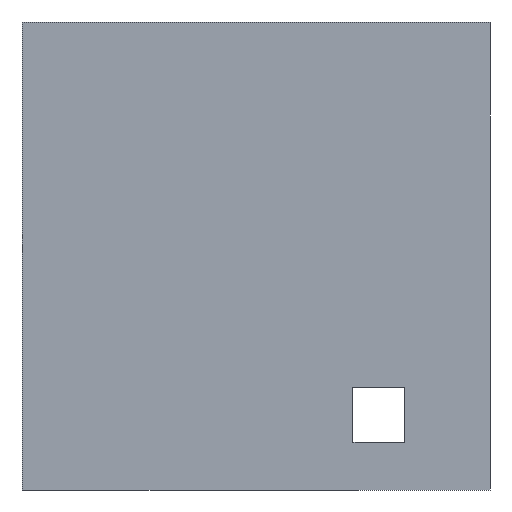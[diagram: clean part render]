
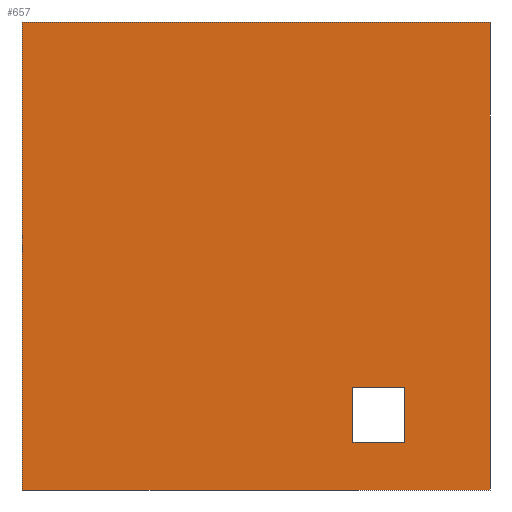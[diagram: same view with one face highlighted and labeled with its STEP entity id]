
A CAD part, left-side view. The second image highlights one B-rep face of the part: STEP entity #657.
In plain terms, the highlighted planar face has unit normal (-1, 0, 0).
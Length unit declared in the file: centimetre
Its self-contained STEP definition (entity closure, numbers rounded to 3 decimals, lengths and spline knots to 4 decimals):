
#12 = VERTEX_POINT ( 'NONE', #1239 ) ;
#28 = ORIENTED_EDGE ( 'NONE', *, *, #1185, .T. ) ;
#44 = CARTESIAN_POINT ( 'NONE',  ( 0., 1000., 1000. ) ) ;
#55 = EDGE_CURVE ( 'NONE', #419, #1200, #273, .T. ) ;
#62 = DIRECTION ( 'NONE',  ( 0., -1., 0. ) ) ;
#105 = VECTOR ( 'NONE', #532, 100. ) ;
#120 = VECTOR ( 'NONE', #1273, 100. ) ;
#145 = EDGE_LOOP ( 'NONE', ( #287, #1041, #222, #806 ) ) ;
#167 = VERTEX_POINT ( 'NONE', #1027 ) ;
#180 = DIRECTION ( 'NONE',  ( 0., -1., 0. ) ) ;
#222 = ORIENTED_EDGE ( 'NONE', *, *, #1074, .F. ) ;
#225 = CARTESIAN_POINT ( 'NONE',  ( 0., 181.9155, 101.6699 ) ) ;
#234 = CARTESIAN_POINT ( 'NONE',  ( 0., 1000., 1000. ) ) ;
#237 = VECTOR ( 'NONE', #180, 100. ) ;
#238 = VECTOR ( 'NONE', #1187, 100. ) ;
#267 = LINE ( 'NONE', #362, #1184 ) ;
#273 = LINE ( 'NONE', #383, #1210 ) ;
#285 = CARTESIAN_POINT ( 'NONE',  ( 0., 0., 1000. ) ) ;
#287 = ORIENTED_EDGE ( 'NONE', *, *, #55, .T. ) ;
#300 = AXIS2_PLACEMENT_3D ( 'NONE', #44, #773, #966 ) ;
#309 = ORIENTED_EDGE ( 'NONE', *, *, #999, .T. ) ;
#310 = EDGE_LOOP ( 'NONE', ( #309, #798, #900, #28 ) ) ;
#324 = CARTESIAN_POINT ( 'NONE',  ( 0., 181.9155, 219.8438 ) ) ;
#359 = VECTOR ( 'NONE', #772, 100. ) ;
#362 = CARTESIAN_POINT ( 'NONE',  ( 0., 292.8012, 101.6699 ) ) ;
#383 = CARTESIAN_POINT ( 'NONE',  ( 0., 1000., 0. ) ) ;
#417 = CARTESIAN_POINT ( 'NONE',  ( 0., 1000., 1000. ) ) ;
#419 = VERTEX_POINT ( 'NONE', #826 ) ;
#474 = CARTESIAN_POINT ( 'NONE',  ( 0., 181.9155, 101.6699 ) ) ;
#500 = CARTESIAN_POINT ( 'NONE',  ( 0., 292.8012, 219.8438 ) ) ;
#529 = DIRECTION ( 'NONE',  ( 0., 0., -1. ) ) ;
#532 = DIRECTION ( 'NONE',  ( 0., 0., -1. ) ) ;
#548 = FACE_OUTER_BOUND ( 'NONE', #145, .T. ) ;
#566 = PLANE ( 'NONE',  #300 ) ;
#585 = LINE ( 'NONE', #1197, #653 ) ;
#641 = VERTEX_POINT ( 'NONE', #324 ) ;
#653 = VECTOR ( 'NONE', #529, 100. ) ;
#657 = ADVANCED_FACE ( 'NONE', ( #1290, #548 ), #566, .F. ) ;
#673 = EDGE_CURVE ( 'NONE', #1122, #12, #1277, .T. ) ;
#734 = LINE ( 'NONE', #285, #105 ) ;
#745 = CARTESIAN_POINT ( 'NONE',  ( 0., 181.9155, 101.6699 ) ) ;
#772 = DIRECTION ( 'NONE',  ( 0., -1., 0. ) ) ;
#773 = DIRECTION ( 'NONE',  ( 1., 0., 0. ) ) ;
#777 = DIRECTION ( 'NONE',  ( 0., 0., 1. ) ) ;
#793 = LINE ( 'NONE', #1125, #237 ) ;
#798 = ORIENTED_EDGE ( 'NONE', *, *, #673, .T. ) ;
#806 = ORIENTED_EDGE ( 'NONE', *, *, #1166, .T. ) ;
#826 = CARTESIAN_POINT ( 'NONE',  ( 0., 1000., 0. ) ) ;
#871 = EDGE_CURVE ( 'NONE', #167, #1200, #734, .T. ) ;
#900 = ORIENTED_EDGE ( 'NONE', *, *, #1134, .T. ) ;
#914 = VERTEX_POINT ( 'NONE', #417 ) ;
#930 = VERTEX_POINT ( 'NONE', #500 ) ;
#966 = DIRECTION ( 'NONE',  ( 0., 0., -1. ) ) ;
#999 = EDGE_CURVE ( 'NONE', #641, #1122, #1302, .T. ) ;
#1017 = CARTESIAN_POINT ( 'NONE',  ( 0., 0., 0. ) ) ;
#1027 = CARTESIAN_POINT ( 'NONE',  ( 0., 0., 1000. ) ) ;
#1041 = ORIENTED_EDGE ( 'NONE', *, *, #871, .F. ) ;
#1074 = EDGE_CURVE ( 'NONE', #914, #167, #1180, .T. ) ;
#1122 = VERTEX_POINT ( 'NONE', #474 ) ;
#1125 = CARTESIAN_POINT ( 'NONE',  ( 0., 181.9155, 219.8438 ) ) ;
#1134 = EDGE_CURVE ( 'NONE', #12, #930, #267, .T. ) ;
#1166 = EDGE_CURVE ( 'NONE', #914, #419, #585, .T. ) ;
#1180 = LINE ( 'NONE', #234, #359 ) ;
#1184 = VECTOR ( 'NONE', #777, 100. ) ;
#1185 = EDGE_CURVE ( 'NONE', #930, #641, #793, .T. ) ;
#1187 = DIRECTION ( 'NONE',  ( 0., 1., 0. ) ) ;
#1197 = CARTESIAN_POINT ( 'NONE',  ( 0., 1000., 1000. ) ) ;
#1200 = VERTEX_POINT ( 'NONE', #1017 ) ;
#1210 = VECTOR ( 'NONE', #62, 100. ) ;
#1239 = CARTESIAN_POINT ( 'NONE',  ( 0., 292.8012, 101.6699 ) ) ;
#1273 = DIRECTION ( 'NONE',  ( 0., 0., -1. ) ) ;
#1277 = LINE ( 'NONE', #745, #238 ) ;
#1290 = FACE_BOUND ( 'NONE', #310, .T. ) ;
#1302 = LINE ( 'NONE', #225, #120 ) ;
